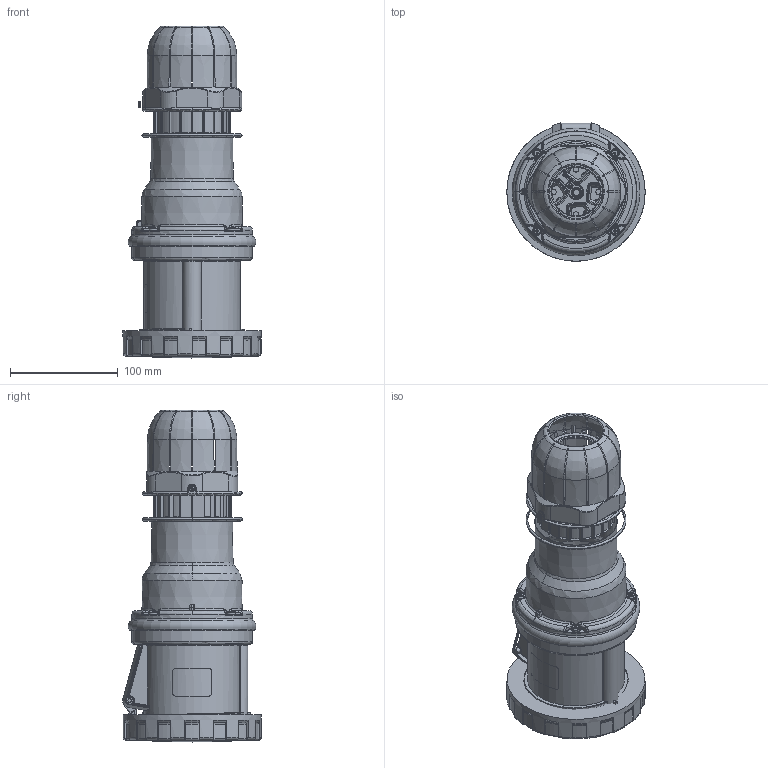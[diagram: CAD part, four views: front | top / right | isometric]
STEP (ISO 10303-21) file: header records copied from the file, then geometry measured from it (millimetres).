
FILE_DESCRIPTION(/* description */ (''),/* implementation_level */ '2;1');
FILE_NAME(/* name */ '4001211.stp',/* time_stamp */ '2017-05-09T19:30:03+02:00',/* author */ (''),/* organization */ (''),/* preprocessor_version */ 'ST-DEVELOPER v16',/* originating_system */ 'SIEMENS PLM Software NX 11.0',/* authorisation */ '');
FILE_SCHEMA (('AUTOMOTIVE_DESIGN { 1 0 10303 214 3 1 1 1 }'));
Products named in the file (1): 4001211_LINKEDEXT_jt
Bounding box: 128.5 x 128.73 x 308.71 mm (x, y, z)
Surface area: 147156.5 mm2 (no closed solid volume)
Topology: 0 solids, 94 shells, 722 faces, 3111 edges, 2406 vertices
Faces by surface type: cylinder 197, bspline 195, plane 184, torus 75, cone 69, sphere 2
Full cylindrical faces by diameter (mm): 3.5 x1, 4 x1, 4.5 x2, 5.7 x1, 8 x4, 93 x1, 112.25 x2, 114 x1, 117.8 x1, 128.5 x1
Entity records: 60514 total; most frequent: CARTESIAN_POINT 32458, ORIENTED_EDGE 4214, DIRECTION 4129, EDGE_CURVE 3045, VERTEX_POINT 2386, AXIS2_PLACEMENT_3D 1562, LINE 1005, VECTOR 1005
